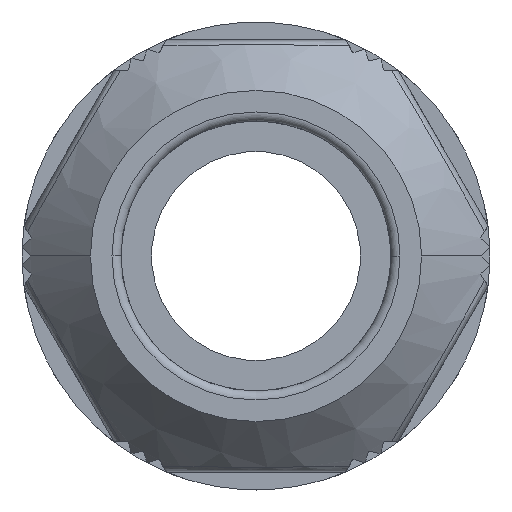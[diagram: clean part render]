
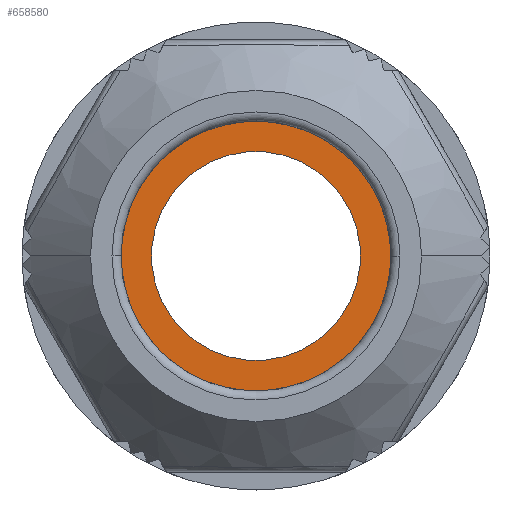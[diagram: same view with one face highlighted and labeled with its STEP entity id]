
A CAD part, left-side view. The second image highlights one B-rep face of the part: STEP entity #658580.
In plain terms, the highlighted planar face has unit normal (-1, 0, 0).
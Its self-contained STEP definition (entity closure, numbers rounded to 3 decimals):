
#657890=CARTESIAN_POINT('',(-25.226,48.338,
-4.101));
#657900=VERTEX_POINT('',#657890);
#658100=CARTESIAN_POINT('',(-25.226,56.54,4.101
));
#658110=VERTEX_POINT('',#658100);
#658140=CARTESIAN_POINT('',(-25.226,52.439,
0.));
#658150=DIRECTION('',(-1.,0.,0.));
#658160=DIRECTION('',(0.,-0.707,
0.707));
#658170=AXIS2_PLACEMENT_3D('',#658140,#658150,#658160);
#658180=CIRCLE('',#658170,5.8);
#658190=CARTESIAN_POINT('',(-25.226,48.338,4.101
));
#658200=VERTEX_POINT('',#658190);
#658210=EDGE_CURVE('',#658200,#658110,#658180,.T.);
#658230=EDGE_CURVE('',#657900,#658200,#658180,.T.);
#658280=CARTESIAN_POINT('',(-25.226,47.736,4.702
));
#658290=DIRECTION('',(1.,0.,0.));
#658300=DIRECTION('',(0.,0.707,
0.707));
#658310=AXIS2_PLACEMENT_3D('',#658280,#658290,#658300);
#658320=PLANE('',#658310);
#658330=CARTESIAN_POINT('',(-25.226,52.439,
0.));
#658340=DIRECTION('',(-1.,0.,0.));
#658350=DIRECTION('',(0.,-0.707,
0.707));
#658360=AXIS2_PLACEMENT_3D('',#658330,#658340,#658350);
#658370=CIRCLE('',#658360,7.5);
#658380=CARTESIAN_POINT('',(-25.226,57.742,5.303)
);
#658390=VERTEX_POINT('',#658380);
#658400=CARTESIAN_POINT('',(-25.226,47.135,-5.303
));
#658410=VERTEX_POINT('',#658400);
#658420=EDGE_CURVE('',#658390,#658410,#658370,.T.);
#658430=ORIENTED_EDGE('',*,*,#658420,.T.);
#658440=CARTESIAN_POINT('',(-25.226,47.135,5.303)
);
#658450=VERTEX_POINT('',#658440);
#658460=EDGE_CURVE('',#658450,#658390,#658370,.T.);
#658470=ORIENTED_EDGE('',*,*,#658460,.T.);
#658480=EDGE_CURVE('',#658410,#658450,#658370,.T.);
#658490=ORIENTED_EDGE('',*,*,#658480,.T.);
#658500=EDGE_LOOP('',(#658490,#658470,#658430));
#658510=FACE_OUTER_BOUND('',#658500,.T.);
#658520=ORIENTED_EDGE('',*,*,#658210,.F.);
#658530=EDGE_CURVE('',#658110,#657900,#658180,.T.);
#658540=ORIENTED_EDGE('',*,*,#658530,.F.);
#658550=ORIENTED_EDGE('',*,*,#658230,.F.);
#658560=EDGE_LOOP('',(#658550,#658540,#658520));
#658570=FACE_BOUND('',#658560,.T.);
#658580=ADVANCED_FACE('',(#658510,#658570),#658320,.F.);
